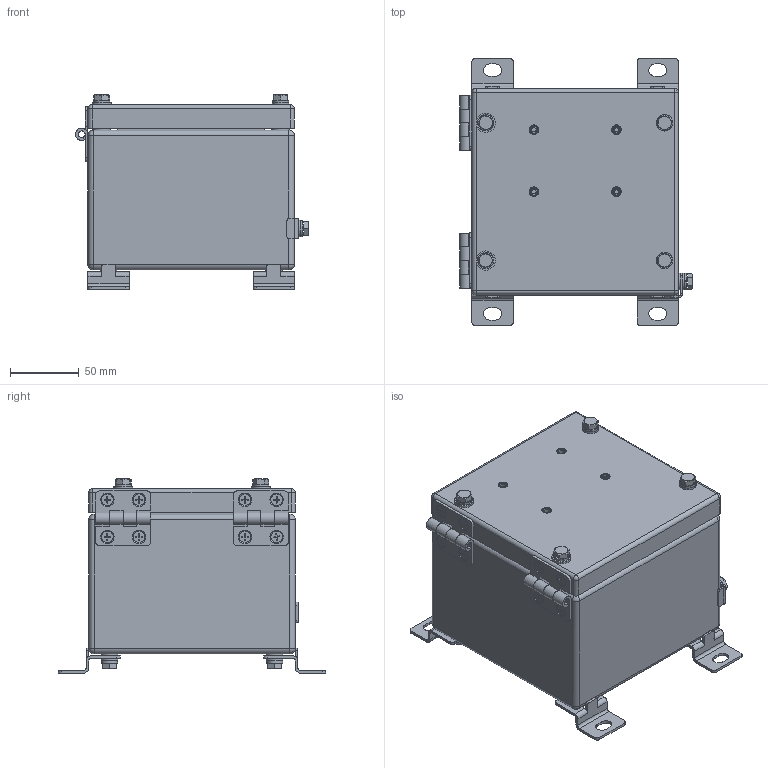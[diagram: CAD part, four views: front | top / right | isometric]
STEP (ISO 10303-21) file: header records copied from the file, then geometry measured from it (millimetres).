
FILE_DESCRIPTION((''),'2;1');
FILE_NAME('\\192.168.5.25\cortem_klient\INVENTOR БАЗА МОДЕЛЕЙ\Актуальная база моделей для отдела продаж\КСРВ-Н\КСРВ-Н151512_М5_ПЕТЛЯ.stp','2019-04-09T14:05:35',('A.S.Kozlov'),(''),'Autodesk Inventor 2012','Autodesk Inventor 2012','');
FILE_SCHEMA(('CONFIG_CONTROL_DESIGN'));
Length unit declared in the file: millimetre
Products named in the file (1): КСРВ-(параметрическая модель)_Внешний контур_1
Bounding box: 169.19 x 194 x 141.2 mm (x, y, z)
Surface area: 191336.8 mm2 (no closed solid volume)
Topology: 0 solids, 88 shells, 454 faces, 1555 edges, 1127 vertices
Faces by surface type: plane 253, cylinder 155, cone 33, sphere 12, torus 1
Full cylindrical faces by diameter (mm): 4.917 x1, 5 x4, 5.9 x5, 6.1 x1, 10 x2, 12 x12, 12.7 x4, 14 x2
Entity records: 17510 total; most frequent: CARTESIAN_POINT 3504, DIRECTION 2841, ORIENTED_EDGE 2317, EDGE_CURVE 1487, VERTEX_POINT 1111, AXIS2_PLACEMENT_3D 1034, VECTOR 773, LINE 773
